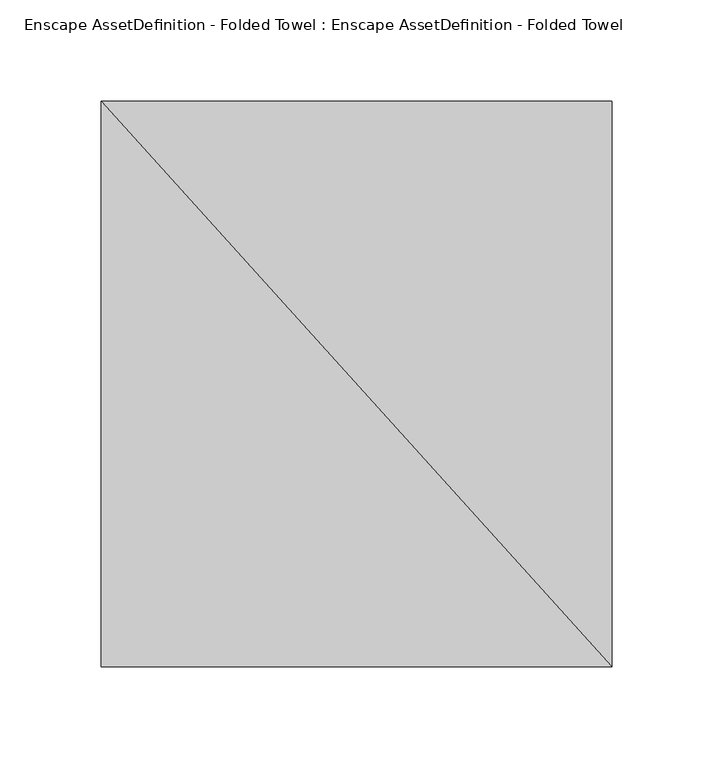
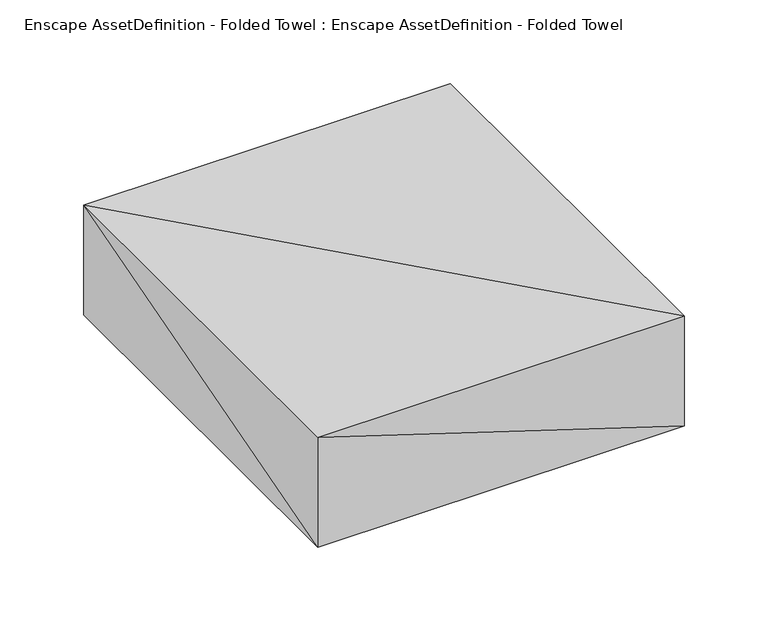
"""IFC4 building model written with IfcOpenShell, lengths in millimetres: geographic element geometry, Enscape AssetDefinition - Folded Towel : Enscape AssetDefinition - Folded Towel."""

from ifc_helpers import new_model, si_unit, origin, place, context, project, spatial, faceted_brep, source, transform, mapped, element, save


def enscape_assetdefinition_folded_towel_enscape_assetdefinition_80e501e3(model_context):
    return source(origin(), model_context, "Body", "Brep", [
        faceted_brep([(-124.9804422, 138.6552155, 79.9999908), (-124.9804422, -140.5129582, 79.9999908), (127.2857636, -140.5129582, 79.9999908), (127.2857636, 138.6552155, 79.9999908), (-124.9804422, -140.5129582, 0.0), (-124.9804422, 138.6552155, 0.0), (127.2857636, -140.5129582, 0.0), (127.2857636, 138.6552155, 0.0)], [[[0, 1, 2]], [[0, 2, 3]], [[4, 1, 0]], [[4, 0, 5]], [[6, 2, 1]], [[6, 1, 4]], [[7, 3, 2]], [[7, 2, 6]], [[5, 0, 3]], [[5, 3, 7]], [[6, 4, 5]], [[7, 6, 5]]]),
    ])


if __name__ == "__main__":
    model = new_model("IFC4")
    model_context = context("Model", 3, world=origin())
    ifc_project = project(units=[si_unit("LENGTHUNIT", "METRE", prefix="MILLI")], contexts=[model_context])
    site = spatial("IfcSite", under=ifc_project)
    building = spatial("IfcBuilding", under=site)
    placement = place(None, origin())
    enscape_assetdefinition_folded_towel_enscape_assetdefinition_shape = enscape_assetdefinition_folded_towel_enscape_assetdefinition_80e501e3(model_context)
    element("IfcGeographicElement", 1, ObjectType="Enscape AssetDefinition - Folded Towel : Enscape AssetDefinition - Folded Towel", at=placement, inside=building, context=model_context, shape_type="MappedRepresentation", body=[
        mapped(enscape_assetdefinition_folded_towel_enscape_assetdefinition_shape, transform((0.0, 0.0, 0.0), x_axis=(1.0, 0.0, 0.0), y_axis=(0.0, 1.0, 0.0), z_axis=(0.0, 0.0, 1.0))),
    ])
    save(model, "model.ifc")
